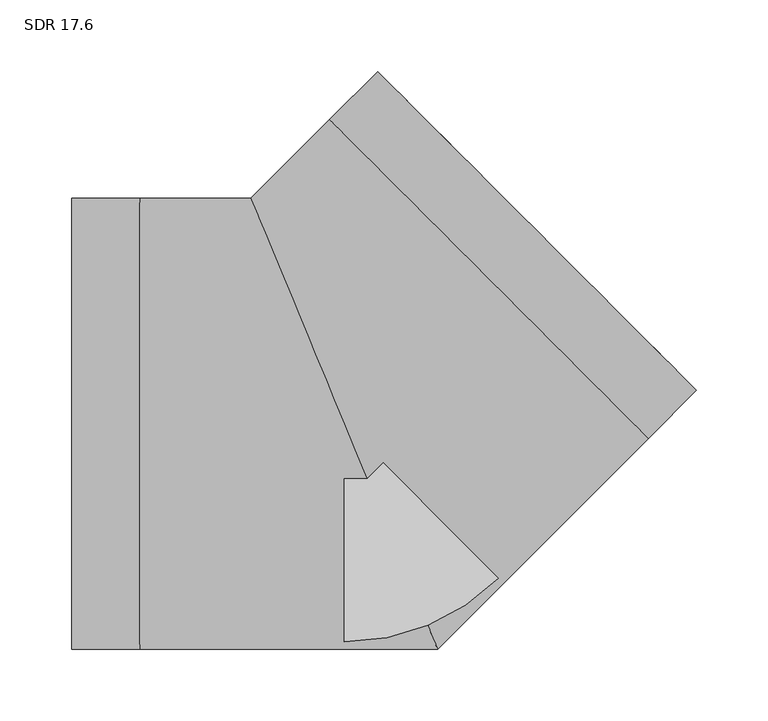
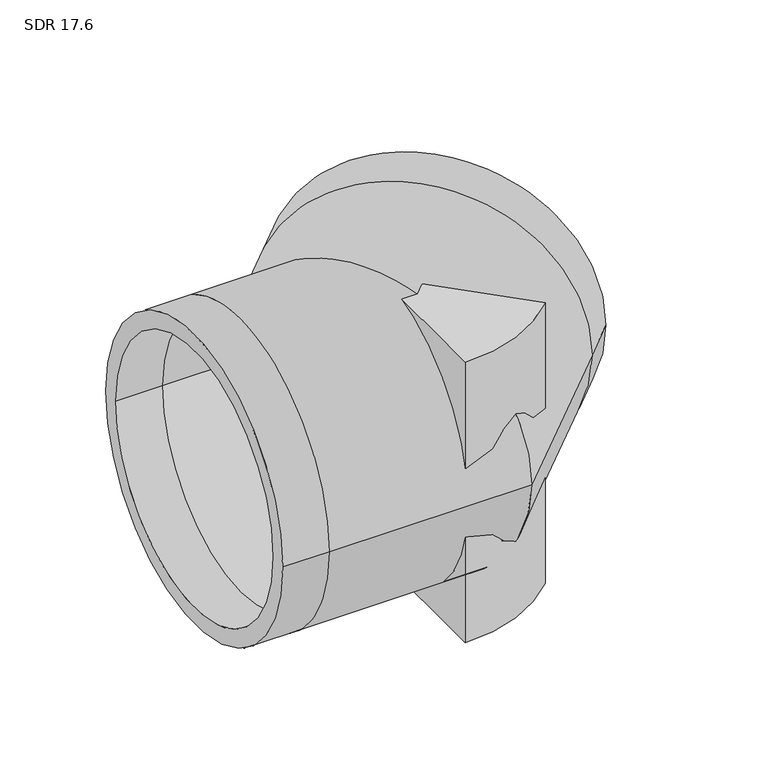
"""IFC4 building model written with IfcOpenShell, lengths in millimetres: pipe fitting geometry, Aquatherm - Elbow Blue BW Segmented : SDR 17.6."""

from ifc_helpers import new_model, si_unit, point, frame, origin, origin_with_axes, origin_2d, place, context, project, spatial, polyline, circle_curve, ellipse_curve, trimmed, segment, composite_curve, outline, extrude, source, transform, mapped, element, save
from ifc_brep_helpers import plane_surface, cylinder_surface, revolved_surface, advanced_brep


def sdr_17_6_aa6f0d0c(model_context):
    return source(origin(), model_context, "Body", "SolidModel", [
        extrude(outline(composite_curve([segment(polyline([(0.0, -152.4), (0.0, 0.0), (107.7630735, -107.7630735)]), True, "CONTINUOUS"), segment(trimmed(circle_curve(origin_2d(), 152.4), [point((107.7630735, -107.7630735))], [point((0.0, -152.4))], False, "CARTESIAN"), True, "CONTINUOUS")], self_intersect=False)), frame((0.0, 0.0, -152.4), z_axis=(0.0, 0.0, 1.0), x_axis=(1.0, 0.0, 0.0)), (0.0, 0.0, 1.0), 152.4),
        extrude(outline(composite_curve([segment(trimmed(circle_curve(origin_2d(), 152.4), [point((107.7630735, -107.7630735))], [point((0.0, -152.4))], False, "CARTESIAN"), True, "CONTINUOUS"), segment(polyline([(0.0, -152.4), (0.0, 0.0), (107.7630735, -107.7630735)]), True, "CONTINUOUS")], self_intersect=False)), origin_with_axes(), (0.0, 0.0, 1.0), 152.4),
        advanced_brep(
        [(-190.5, -157.48, 0.0), (-190.5, 157.48, 0.0), (-190.5, -139.586134, 0.0), (-190.5, 139.586134, 0.0), (246.0590177, 23.3486659, 0.0), (23.3486659, 246.0590177, 0.0), (233.4061438, 36.0015399, 0.0), (36.0015399, 233.4061438, 0.0), (-142.875, -157.48, 0.0), (-142.875, 157.48, 0.0), (-142.875, -139.586134, 0.0), (-142.875, 139.586134, 0.0), (65.2303518, -157.48, 0.0), (-65.2303518, 157.48, 0.0), (57.8184698, -139.586134, 0.0), (-57.8184698, 139.586134, 0.0), (212.3830573, -10.3272945, 0.0), (-10.3272945, 212.3830573, 0.0), (199.7301833, 2.3255794, 0.0), (2.3255794, 199.7301833, 0.0)],
        [
            (0, 1, circle_curve(frame((-190.5, 0.0, 0.0), z_axis=(-1.0, 0.0, 0.0), x_axis=(0.0, 1.0, 0.0)), 157.48)),
            (1, 0, circle_curve(frame((-190.5, 0.0, 0.0), z_axis=(-1.0, 0.0, 0.0), x_axis=(0.0, 1.0, 0.0)), 157.48)),
            (2, 3, circle_curve(frame((-190.5, 0.0, 0.0), z_axis=(1.0, 0.0, 0.0), x_axis=(0.0, 1.0, 0.0)), 139.586134)),
            (3, 2, circle_curve(frame((-190.5, 0.0, 0.0), z_axis=(1.0, 0.0, 0.0), x_axis=(0.0, 1.0, 0.0)), 139.586134)),
            (4, 5, circle_curve(frame((134.7038418, 134.7038418, 0.0), z_axis=(0.7071067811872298, 0.7071067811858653, 0.0), x_axis=(-0.7071067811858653, 0.7071067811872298, 0.0)), 157.48)),
            (5, 4, circle_curve(frame((134.7038418, 134.7038418, 0.0), z_axis=(0.7071067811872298, 0.7071067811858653, 0.0), x_axis=(-0.7071067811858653, 0.7071067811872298, 0.0)), 157.48)),
            (6, 7, circle_curve(frame((134.7038418, 134.7038418, 0.0), z_axis=(-0.7071067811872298, -0.7071067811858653, 0.0), x_axis=(-0.7071067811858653, 0.7071067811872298, 0.0)), 139.586134)),
            (7, 6, circle_curve(frame((134.7038418, 134.7038418, 0.0), z_axis=(-0.7071067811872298, -0.7071067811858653, 0.0), x_axis=(-0.7071067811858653, 0.7071067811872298, 0.0)), 139.586134)),
            (0, 8),
            (8, 9, circle_curve(frame((-142.875, 0.0, 0.0), z_axis=(-1.0, 0.0, 0.0), x_axis=(0.0, 1.0, 0.0)), 157.48)),
            (9, 1),
            (9, 8, circle_curve(frame((-142.875, 0.0, 0.0), z_axis=(-1.0, 0.0, 0.0), x_axis=(0.0, 1.0, 0.0)), 157.48)),
            (2, 10),
            (10, 11, circle_curve(frame((-142.875, 0.0, 0.0), z_axis=(1.0, 0.0, 0.0), x_axis=(0.0, 1.0, 0.0)), 139.586134)),
            (11, 3),
            (11, 10, circle_curve(frame((-142.875, 0.0, 0.0), z_axis=(1.0, 0.0, 0.0), x_axis=(0.0, 1.0, 0.0)), 139.586134)),
            (8, 12),
            (12, 13, ellipse_curve(frame((0.0, 0.0, 0.0), z_axis=(-0.9238795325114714, -0.38268343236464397, 0.0), x_axis=(-0.38268343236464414, 0.9238795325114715, 0.0)), 170.4551237, 157.48)),
            (13, 9),
            (13, 12, ellipse_curve(frame((0.0, 0.0, 0.0), z_axis=(-0.9238795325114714, -0.38268343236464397, 0.0), x_axis=(-0.38268343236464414, 0.9238795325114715, 0.0)), 170.4551237, 157.48)),
            (10, 14),
            (14, 15, ellipse_curve(frame((0.0, 0.0, 0.0), z_axis=(0.9238795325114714, 0.38268343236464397, 0.0), x_axis=(0.38268343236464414, -0.9238795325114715, 0.0)), 151.0869428, 139.586134)),
            (15, 11),
            (15, 14, ellipse_curve(frame((0.0, 0.0, 0.0), z_axis=(0.9238795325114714, 0.38268343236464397, 0.0), x_axis=(0.38268343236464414, -0.9238795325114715, 0.0)), 151.0869428, 139.586134)),
            (12, 16),
            (16, 17, circle_curve(frame((101.0278814, 101.0278814, 0.0), z_axis=(-0.7071067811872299, -0.7071067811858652, 0.0), x_axis=(-0.7071067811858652, 0.7071067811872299, 0.0)), 157.48)),
            (17, 13),
            (17, 16, circle_curve(frame((101.0278814, 101.0278814, 0.0), z_axis=(-0.7071067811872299, -0.7071067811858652, 0.0), x_axis=(-0.7071067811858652, 0.7071067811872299, 0.0)), 157.48)),
            (14, 18),
            (18, 19, circle_curve(frame((101.0278814, 101.0278814, 0.0), z_axis=(0.7071067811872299, 0.7071067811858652, 0.0), x_axis=(-0.7071067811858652, 0.7071067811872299, 0.0)), 139.586134)),
            (19, 15),
            (19, 18, circle_curve(frame((101.0278814, 101.0278814, 0.0), z_axis=(0.7071067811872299, 0.7071067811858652, 0.0), x_axis=(-0.7071067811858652, 0.7071067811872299, 0.0)), 139.586134)),
            (16, 4),
            (5, 17),
            (18, 6),
            (7, 19),
        ],
        [
            plane_surface(frame((-190.5, 0.0, 0.0), z_axis=(-1.0, 0.0, 0.0), x_axis=(0.0, 0.0, 1.0))),
            plane_surface(frame((134.7038418, 134.7038418, 0.0), z_axis=(0.7071067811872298, 0.7071067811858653, 0.0), x_axis=(0.0, 0.0, 1.0))),
            cylinder_surface(frame((-190.5, 0.0, 0.0), z_axis=(-1.0, 0.0, 0.0), x_axis=(0.0, 1.0, 0.0)), 157.48),
            revolved_surface(polyline([(-142.875, 139.586134, 0.0), (-190.5, 139.586134, 0.0)]), (-190.5, 0.0, 0.0), (1.0, 0.0, 0.0)),
            cylinder_surface(frame((-142.875, 0.0, 0.0), z_axis=(-1.0, 0.0, 0.0), x_axis=(0.0, 1.0, 0.0)), 157.48),
            revolved_surface(polyline([(57.81846985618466, 139.586134, 0.0), (-142.875, 139.586134, 0.0)]), (-142.875, 0.0, 0.0), (1.0, 0.0, 0.0)),
            cylinder_surface(frame((0.0, 0.0, 0.0), z_axis=(-0.7071067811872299, -0.7071067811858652, 0.0), x_axis=(-0.7071067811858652, 0.7071067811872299, 0.0)), 157.48),
            revolved_surface(polyline([(2.3255794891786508, 199.73018331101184, 0.0), (-139.58613402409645, 57.818469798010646, 0.0)]), (0.0, 0.0, 0.0), (0.7071067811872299, 0.7071067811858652, 0.0)),
            cylinder_surface(frame((101.0278814, 101.0278814, 0.0), z_axis=(-0.7071067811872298, -0.7071067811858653, 0.0), x_axis=(-0.7071067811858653, 0.7071067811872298, 0.0)), 157.48),
            revolved_surface(polyline([(36.001539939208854, 233.40614376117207, 0.0), (2.3255794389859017, 199.7301832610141, 0.0)]), (101.0278814, 101.0278814, 0.0), (0.7071067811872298, 0.7071067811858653, 0.0)),
        ],
        [
            (0, [[1, 2], [3, 4]]),
            (1, [[5, 6], [7, 8]]),
            (2, [[-1, 9, 10, 11]]),
            (2, [[-2, -11, 12, -9]]),
            (3, [[-3, 13, 14, 15]]),
            (3, [[-4, -15, 16, -13]]),
            (4, [[-10, 17, 18, 19]]),
            (4, [[-12, -19, 20, -17]]),
            (5, [[-14, 21, 22, 23]]),
            (5, [[-16, -23, 24, -21]]),
            (6, [[-18, 25, 26, 27]]),
            (6, [[-20, -27, 28, -25]]),
            (7, [[-22, 29, 30, 31]]),
            (7, [[-24, -31, 32, -29]]),
            (8, [[-26, 33, -6, 34]]),
            (8, [[-28, -34, -5, -33]]),
            (9, [[-30, 35, -8, 36]]),
            (9, [[-32, -36, -7, -35]]),
        ],
    ),
    ])


if __name__ == "__main__":
    model = new_model("IFC4")
    model_context = context("Model", 3, world=origin())
    ifc_project = project(units=[si_unit("LENGTHUNIT", "METRE", prefix="MILLI")], contexts=[model_context])
    site = spatial("IfcSite", under=ifc_project)
    building = spatial("IfcBuilding", under=site)
    placement = place(None, origin())
    sdr_17_6_shape = sdr_17_6_aa6f0d0c(model_context)
    element("IfcPipeFitting", 1, ObjectType="Aquatherm - Elbow Blue BW Segmented : SDR 17.6", at=placement, inside=building, context=model_context, shape_type="MappedRepresentation", body=[
        mapped(sdr_17_6_shape, transform((0.0, 0.0, 0.0), x_axis=(1.0, 0.0, 0.0), y_axis=(0.0, 1.0, 0.0), z_axis=(0.0, 0.0, 1.0))),
    ])
    save(model, "model.ifc")
